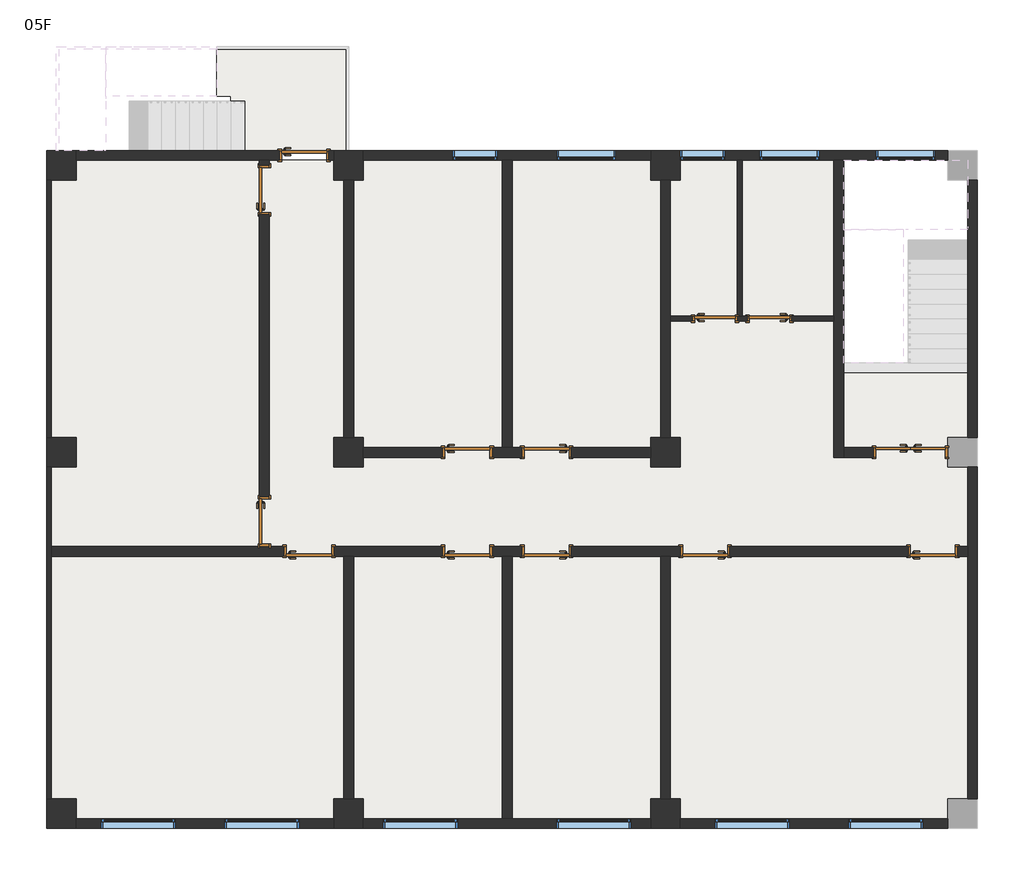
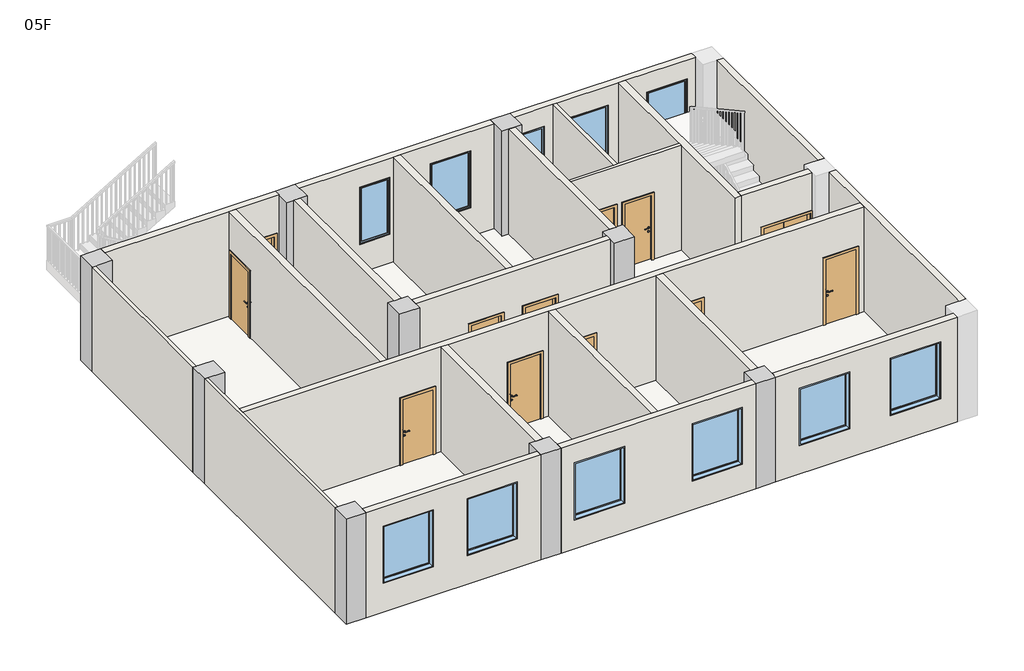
# One storey, part 1 of 3: 23 walls, 13 doors, 11 windows, 9 columns, 2 slabs.
"""IFC4 building model written with IfcOpenShell, lengths in millimetres."""

from ifc_helpers import new_model, si_unit, frame, origin, place, context, project, spatial, polyline, outline, extrude, faceted_brep, transform, mapped, element, save
from components import column_600_x_600mm_867b5594, m2_692f9d9b, m3_ab7da2a0, m3_c9bb6752, m4_a67fd2dd, m4_12d08f6f, c2_16925ed6, c4_3407baf4, c6_982aaf11

model = new_model("IFC4")

# Units and contexts
model_context = context("Model", 3, world=origin())
ifc_project = project(units=[si_unit("LENGTHUNIT", "METRE", prefix="MILLI")], contexts=[model_context])

# Site, building, storey
site = spatial("IfcSite", under=ifc_project)
building = spatial("IfcBuilding", under=site)
storey = spatial("IfcBuildingStorey", under=building, Name="05F", Elevation=13800.0)

# Columns
placement = place(None, origin())
column_600_x_600mm_shape = column_600_x_600mm_867b5594(model_context)
element("IfcColumn", 1, ObjectType="混凝土 - 矩形 - 柱 : 600 x 600mm", at=placement, inside=storey, context=model_context, shape_type="MappedRepresentation", body=[
    mapped(column_600_x_600mm_shape, transform((200.0, 13300.0, 0.0), x_axis=(1.0, 0.0, 0.0), y_axis=(0.0, 1.0, 0.0), z_axis=(0.0, 0.0, 1.0))),
])
element("IfcColumn", 2, ObjectType="混凝土 - 矩形 - 柱 : 600 x 600mm", at=placement, inside=storey, context=model_context, shape_type="MappedRepresentation", body=[
    mapped(column_600_x_600mm_shape, transform((6000.0, 13300.0, 0.0), x_axis=(1.0, 0.0, 0.0), y_axis=(0.0, 1.0, 0.0), z_axis=(0.0, 0.0, 1.0))),
])
element("IfcColumn", 3, ObjectType="混凝土 - 矩形 - 柱 : 600 x 600mm", at=placement, inside=storey, context=model_context, shape_type="MappedRepresentation", body=[
    mapped(column_600_x_600mm_shape, transform((12400.0, 13300.0, 0.0), x_axis=(1.0, 0.0, 0.0), y_axis=(0.0, 1.0, 0.0), z_axis=(0.0, 0.0, 1.0))),
])
element("IfcColumn", 4, ObjectType="混凝土 - 矩形 - 柱 : 600 x 600mm", at=placement, inside=storey, context=model_context, shape_type="MappedRepresentation", body=[
    mapped(column_600_x_600mm_shape, transform((200.0, 7500.0, 0.0), x_axis=(1.0, 0.0, 0.0), y_axis=(0.0, 1.0, 0.0), z_axis=(0.0, 0.0, 1.0))),
])
element("IfcColumn", 5, ObjectType="混凝土 - 矩形 - 柱 : 600 x 600mm", at=placement, inside=storey, context=model_context, shape_type="MappedRepresentation", body=[
    mapped(column_600_x_600mm_shape, transform((6000.0, 7500.0, 0.0), x_axis=(1.0, 0.0, 0.0), y_axis=(0.0, 1.0, 0.0), z_axis=(0.0, 0.0, 1.0))),
])
element("IfcColumn", 6, ObjectType="混凝土 - 矩形 - 柱 : 600 x 600mm", at=placement, inside=storey, context=model_context, shape_type="MappedRepresentation", body=[
    mapped(column_600_x_600mm_shape, transform((12400.0, 7500.0, 0.0), x_axis=(1.0, 0.0, 0.0), y_axis=(0.0, 1.0, 0.0), z_axis=(0.0, 0.0, 1.0))),
])
element("IfcColumn", 7, ObjectType="混凝土 - 矩形 - 柱 : 600 x 600mm", at=placement, inside=storey, context=model_context, shape_type="MappedRepresentation", body=[
    mapped(column_600_x_600mm_shape, transform((200.0, 200.0, 0.0), x_axis=(1.0, 0.0, 0.0), y_axis=(0.0, 1.0, 0.0), z_axis=(0.0, 0.0, 1.0))),
])
element("IfcColumn", 8, ObjectType="混凝土 - 矩形 - 柱 : 600 x 600mm", at=placement, inside=storey, context=model_context, shape_type="MappedRepresentation", body=[
    mapped(column_600_x_600mm_shape, transform((6000.0, 200.0, 0.0), x_axis=(1.0, 0.0, 0.0), y_axis=(0.0, 1.0, 0.0), z_axis=(0.0, 0.0, 1.0))),
])
element("IfcColumn", 9, ObjectType="混凝土 - 矩形 - 柱 : 600 x 600mm", at=placement, inside=storey, context=model_context, shape_type="MappedRepresentation", body=[
    mapped(column_600_x_600mm_shape, transform((12400.0, 200.0, 0.0), x_axis=(1.0, 0.0, 0.0), y_axis=(0.0, 1.0, 0.0), z_axis=(0.0, 0.0, 1.0))),
])

# Doors
m2_shape = m2_692f9d9b(model_context)
element("IfcDoor", 10, ObjectType="双面嵌板木门 1 : M2", at=placement, inside=storey, context=model_context, shape_type="MappedRepresentation", body=[
    mapped(m2_shape, transform((17350.0, 7500.0, 13800.0), x_axis=(1.0, 0.0, 0.0), y_axis=(0.0, 1.0, 0.0), z_axis=(0.0, 0.0, 1.0))),
])
m3_shape = m3_ab7da2a0(model_context)
element("IfcDoor", 11, ObjectType="单嵌板木门 1 : M3", at=placement, inside=storey, context=model_context, shape_type="MappedRepresentation", body=[
    mapped(m3_shape, transform((17800.0, 5500.0, 13800.0), x_axis=(1.0, 0.0, 0.0), y_axis=(0.0, 1.0, 0.0), z_axis=(0.0, 0.0, 1.0))),
])
element("IfcDoor", 12, ObjectType="单嵌板木门 1 : M3", at=placement, inside=storey, context=model_context, shape_type="MappedRepresentation", body=[
    mapped(m3_shape, transform((8400.0, 5500.0, 13800.0), x_axis=(1.0, 0.0, 0.0), y_axis=(0.0, 1.0, 0.0), z_axis=(0.0, 0.0, 1.0))),
])
element("IfcDoor", 13, ObjectType="单嵌板木门 1 : M3", at=placement, inside=storey, context=model_context, shape_type="MappedRepresentation", body=[
    mapped(m3_shape, transform((4300.0, 6100.0, 13800.0), x_axis=(0.0, -1.0, 0.0), y_axis=(1.0, 0.0, 0.0), z_axis=(0.0, 0.0, 1.0))),
])
element("IfcDoor", 14, ObjectType="单嵌板木门 1 : M3", at=placement, inside=storey, context=model_context, shape_type="MappedRepresentation", body=[
    mapped(m3_shape, transform((5200.0, 5500.0, 13800.0), x_axis=(1.0, 0.0, 0.0), y_axis=(0.0, 1.0, 0.0), z_axis=(0.0, 0.0, 1.0))),
])
element("IfcDoor", 15, ObjectType="单嵌板木门 1 : M3", at=placement, inside=storey, context=model_context, shape_type="MappedRepresentation", body=[
    mapped(m3_shape, transform((10000.0, 7500.0, 13800.0), x_axis=(-1.0, 0.0, 0.0), y_axis=(0.0, -1.0, 0.0), z_axis=(0.0, 0.0, 1.0))),
])
m3_2_shape = m3_c9bb6752(model_context)
element("IfcDoor", 16, ObjectType="单嵌板木门 1 : M3", at=placement, inside=storey, context=model_context, shape_type="MappedRepresentation", body=[
    mapped(m3_2_shape, transform((13200.0, 5500.0, 13800.0), x_axis=(-1.0, 0.0, 0.0), y_axis=(0.0, -1.0, 0.0), z_axis=(0.0, 0.0, 1.0))),
])
element("IfcDoor", 17, ObjectType="单嵌板木门 1 : M3", at=placement, inside=storey, context=model_context, shape_type="MappedRepresentation", body=[
    mapped(m3_2_shape, transform((10000.0, 5500.0, 13800.0), x_axis=(-1.0, 0.0, 0.0), y_axis=(0.0, -1.0, 0.0), z_axis=(0.0, 0.0, 1.0))),
])
element("IfcDoor", 18, ObjectType="单嵌板木门 1 : M3", at=placement, inside=storey, context=model_context, shape_type="MappedRepresentation", body=[
    mapped(m3_2_shape, transform((5100.0, 13500.0, 13800.0), x_axis=(1.0, 0.0, 0.0), y_axis=(0.0, 1.0, 0.0), z_axis=(0.0, 0.0, 1.0))),
])
element("IfcDoor", 19, ObjectType="单嵌板木门 1 : M3", at=placement, inside=storey, context=model_context, shape_type="MappedRepresentation", body=[
    mapped(m3_2_shape, transform((4300.0, 12800.0, 13800.0), x_axis=(0.0, 1.0, 0.0), y_axis=(-1.0, 0.0, 0.0), z_axis=(0.0, 0.0, 1.0))),
])
element("IfcDoor", 20, ObjectType="单嵌板木门 1 : M3", at=placement, inside=storey, context=model_context, shape_type="MappedRepresentation", body=[
    mapped(m3_2_shape, transform((8400.0, 7500.0, 13800.0), x_axis=(1.0, 0.0, 0.0), y_axis=(0.0, 1.0, 0.0), z_axis=(0.0, 0.0, 1.0))),
])
m4_shape = m4_a67fd2dd(model_context)
element("IfcDoor", 21, ObjectType="单嵌板木门 1 : M4", at=placement, inside=storey, context=model_context, shape_type="MappedRepresentation", body=[
    mapped(m4_shape, transform((13400.0, 10200.0, 13800.0), x_axis=(1.0, 0.0, 0.0), y_axis=(0.0, 1.0, 0.0), z_axis=(0.0, 0.0, 1.0))),
])
m4_2_shape = m4_12d08f6f(model_context)
element("IfcDoor", 22, ObjectType="单嵌板木门 1 : M4", at=placement, inside=storey, context=model_context, shape_type="MappedRepresentation", body=[
    mapped(m4_2_shape, transform((14500.0, 10200.0, 13800.0), x_axis=(-1.0, 0.0, 0.0), y_axis=(0.0, -1.0, 0.0), z_axis=(0.0, 0.0, 1.0))),
])

# Slabs
element("IfcSlab", 23, ObjectType="100mm厚钢筋混凝土", at=placement, inside=storey, context=model_context, shape_type="SweptSolid", body=[
    extrude(outline(polyline([(15800.0, 13400.0), (15800.0, 9100.0), (18500.0, 9100.0), (18500.0, 100.0), (0.0, 100.0), (0.0, 13400.0), (15800.0, 13400.0)])), frame((0.0, 0.0, 13700.0), z_axis=(0.0, 0.0, 1.0), x_axis=(1.0, 0.0, 0.0)), (0.0, 0.0, 1.0), 100.0),
])
element("IfcSlab", 24, ObjectType="常规 - 300mm", at=placement, inside=storey, context=model_context, shape_type="SweptSolid", body=[
    extrude(outline(polyline([(6000.0, 15699.6), (6000.0, 13600.0), (3620.0, 13600.0), (3620.0, 14700.0), (3340.0, 14700.0), (3340.0, 15699.6), (6000.0, 15699.6)])), frame((0.0, 0.0, 13635.0), z_axis=(0.0, 0.0, 1.0), x_axis=(1.0, 0.0, 0.0)), (0.0, 0.0, 1.0), 165.0),
])

# Walls
element("IfcWall", 25, ObjectType="200mm厚加气混凝土砌块", at=placement, inside=storey, context=model_context, shape_type="Brep", body=[
    faceted_brep([(5700.0, 13400.0, 13800.0), (5700.0, 13400.0, 17100.0), (4400.0, 13400.0, 17100.0), (4200.0, 13400.0, 17100.0), (500.0, 13400.0, 17100.0), (500.0, 13400.0, 13800.0), (4200.0, 13400.0, 13800.0), (4400.0, 13400.0, 13800.0), (4600.0, 13400.0, 13800.0), (4600.0, 13400.0, 15900.0), (5600.0, 13400.0, 15900.0), (5600.0, 13400.0, 13800.0), (5700.0, 13600.0, 17100.0), (5700.0, 13600.0, 13800.0), (5600.0, 13600.0, 13800.0), (5600.0, 13600.0, 15900.0), (4600.0, 13600.0, 15900.0), (4600.0, 13600.0, 13800.0), (500.0, 13600.0, 13800.0), (500.0, 13600.0, 17100.0)], [[[0, 1, 2, 3, 4, 5, 6, 7, 8, 9, 10, 11]], [[12, 13, 14, 15, 16, 17, 18, 19]], [[13, 0, 11, 14]], [[5, 18, 17, 8, 7, 6]], [[1, 0, 13, 12]], [[4, 3, 2, 1, 12, 19]], [[5, 4, 19, 18]], [[10, 15, 14, 11]], [[15, 10, 9, 16]], [[16, 9, 8, 17]]]),
])
element("IfcWall", 26, ObjectType="200mm厚加气混凝土砌块", at=placement, inside=storey, context=model_context, shape_type="Brep", body=[
    faceted_brep([(6300.0, 13400.0, 13800.0), (9100.0, 13400.0, 13800.0), (9300.0, 13400.0, 13800.0), (12100.0, 13400.0, 13800.0), (12100.0, 13400.0, 17100.0), (9300.0, 13400.0, 17100.0), (9100.0, 13400.0, 17100.0), (6300.0, 13400.0, 17100.0), (11400.0, 13400.0, 14700.0), (10200.0, 13400.0, 14700.0), (10200.0, 13400.0, 16500.0), (11400.0, 13400.0, 16500.0), (9000.0, 13400.0, 14700.0), (8100.0, 13400.0, 14700.0), (8100.0, 13400.0, 16500.0), (9000.0, 13400.0, 16500.0), (6300.0, 13600.0, 13800.0), (6300.0, 13600.0, 17100.0), (12100.0, 13600.0, 17100.0), (12100.0, 13600.0, 13800.0), (11400.0, 13600.0, 14700.0), (11400.0, 13600.0, 16500.0), (10200.0, 13600.0, 16500.0), (10200.0, 13600.0, 14700.0), (9000.0, 13600.0, 14700.0), (9000.0, 13600.0, 16500.0), (8100.0, 13600.0, 16500.0), (8100.0, 13600.0, 14700.0)], [[[0, 1, 2, 3, 4, 5, 6, 7], [8, 9, 10, 11], [12, 13, 14, 15]], [[16, 17, 18, 19], [20, 21, 22, 23], [24, 25, 26, 27]], [[3, 2, 1, 0, 16, 19]], [[4, 3, 19, 18]], [[7, 6, 5, 4, 18, 17]], [[0, 7, 17, 16]], [[21, 20, 8, 11]], [[22, 21, 11, 10]], [[23, 22, 10, 9]], [[20, 23, 9, 8]], [[25, 24, 12, 15]], [[26, 25, 15, 14]], [[27, 26, 14, 13]], [[24, 27, 13, 12]]]),
])
element("IfcWall", 27, ObjectType="200mm厚加气混凝土砌块", at=placement, inside=storey, context=model_context, shape_type="Brep", body=[
    faceted_brep([(13600.0, 13400.0, 14700.0), (12700.0, 13400.0, 14700.0), (12700.0, 13400.0, 13800.0), (13850.0, 13400.0, 13800.0), (13950.0, 13400.0, 13800.0), (15800.0, 13400.0, 13800.0), (16000.0, 13400.0, 13800.0), (18100.0, 13400.0, 13800.0), (18100.0, 13400.0, 17100.0), (16000.0, 13400.0, 17100.0), (15800.0, 13400.0, 17100.0), (13950.0, 13400.0, 17100.0), (13850.0, 13400.0, 17100.0), (12700.0, 13400.0, 17100.0), (12700.0, 13400.0, 16500.0), (13600.0, 13400.0, 16500.0), (17850.0, 13400.0, 14700.0), (16650.0, 13400.0, 14700.0), (16650.0, 13400.0, 16500.0), (17850.0, 13400.0, 16500.0), (15500.0, 13400.0, 14700.0), (14300.0, 13400.0, 14700.0), (14300.0, 13400.0, 16500.0), (15500.0, 13400.0, 16500.0), (12700.0, 13600.0, 13800.0), (12700.0, 13600.0, 14700.0), (13600.0, 13600.0, 14700.0), (13600.0, 13600.0, 16500.0), (12700.0, 13600.0, 16500.0), (12700.0, 13600.0, 17100.0), (18100.0, 13600.0, 17100.0), (18100.0, 13600.0, 13800.0), (17850.0, 13600.0, 14700.0), (17850.0, 13600.0, 16500.0), (16650.0, 13600.0, 16500.0), (16650.0, 13600.0, 14700.0), (15500.0, 13600.0, 14700.0), (15500.0, 13600.0, 16500.0), (14300.0, 13600.0, 16500.0), (14300.0, 13600.0, 14700.0)], [[[0, 1, 2, 3, 4, 5, 6, 7, 8, 9, 10, 11, 12, 13, 14, 15], [16, 17, 18, 19], [20, 21, 22, 23]], [[24, 25, 26, 27, 28, 29, 30, 31], [32, 33, 34, 35], [36, 37, 38, 39]], [[7, 6, 5, 4, 3, 2, 24, 31]], [[8, 7, 31, 30]], [[13, 12, 11, 10, 9, 8, 30, 29]], [[14, 13, 29, 28]], [[2, 1, 25, 24]], [[33, 32, 16, 19]], [[34, 33, 19, 18]], [[35, 34, 18, 17]], [[32, 35, 17, 16]], [[37, 36, 20, 23]], [[38, 37, 23, 22]], [[39, 38, 22, 21]], [[36, 39, 21, 20]], [[27, 26, 0, 15]], [[28, 27, 15, 14]], [[26, 25, 1, 0]]]),
])
element("IfcWall", 28, ObjectType="200mm厚加气混凝土砌块", at=placement, inside=storey, context=model_context, shape_type="SweptSolid", body=[
    extrude(outline(polyline([(18500.0, 7800.0), (18500.0, 13000.0), (18700.0, 13000.0), (18700.0, 7800.0), (18500.0, 7800.0)])), frame((0.0, 0.0, 13800.0), z_axis=(0.0, 0.0, 1.0), x_axis=(1.0, 0.0, 0.0)), (0.0, 0.0, 1.0), 3300.0),
])
element("IfcWall", 29, ObjectType="200mm厚加气混凝土砌块", at=placement, inside=storey, context=model_context, shape_type="Brep", body=[
    faceted_brep([(18500.0, 7200.0, 13800.0), (18500.0, 5600.0, 13800.0), (18500.0, 5400.0, 13800.0), (18500.0, 500.0, 13800.0), (18500.0, 500.0, 17100.0), (18500.0, 5400.0, 17100.0), (18500.0, 5600.0, 17100.0), (18500.0, 7200.0, 17100.0), (18700.0, 7200.0, 13800.0), (18700.0, 7200.0, 17100.0), (18700.0, 500.0, 17100.0), (18700.0, 500.0, 13800.0)], [[[0, 1, 2, 3, 4, 5, 6, 7]], [[8, 9, 10, 11]], [[3, 2, 1, 0, 8, 11]], [[4, 3, 11, 10]], [[7, 6, 5, 4, 10, 9]], [[0, 7, 9, 8]]]),
])
element("IfcWall", 30, ObjectType="200mm厚加气混凝土砌块", at=placement, inside=storey, context=model_context, shape_type="SweptSolid", body=[
    extrude(outline(polyline([(13800.0, 18100.0), (17100.0, 18100.0), (17100.0, 12700.0), (13800.0, 12700.0), (13800.0, 18100.0)]), holes=[polyline([(14700.0, 16100.0), (16500.0, 16100.0), (16500.0, 17600.0), (14700.0, 17600.0), (14700.0, 16100.0)]), polyline([(14700.0, 13400.0), (16500.0, 13400.0), (16500.0, 14900.0), (14700.0, 14900.0), (14700.0, 13400.0)])]), frame((0.0, -100.0, 0.0), z_axis=(0.0, 1.0, 0.0), x_axis=(0.0, 0.0, 1.0)), (0.0, 0.0, 1.0), 200.0),
])
element("IfcWall", 31, ObjectType="200mm厚加气混凝土砌块", at=placement, inside=storey, context=model_context, shape_type="Brep", body=[
    faceted_brep([(12100.0, 100.0, 13800.0), (9300.0, 100.0, 13800.0), (9100.0, 100.0, 13800.0), (6300.0, 100.0, 13800.0), (6300.0, 100.0, 17100.0), (9100.0, 100.0, 17100.0), (9300.0, 100.0, 17100.0), (12100.0, 100.0, 17100.0), (6700.0, 100.0, 14700.0), (8200.0, 100.0, 14700.0), (8200.0, 100.0, 16500.0), (6700.0, 100.0, 16500.0), (10200.0, 100.0, 14700.0), (11700.0, 100.0, 14700.0), (11700.0, 100.0, 16500.0), (10200.0, 100.0, 16500.0), (12100.0, -100.0, 13800.0), (12100.0, -100.0, 17100.0), (6300.0, -100.0, 17100.0), (6300.0, -100.0, 13800.0), (6700.0, -100.0, 14700.0), (6700.0, -100.0, 16500.0), (8200.0, -100.0, 16500.0), (8200.0, -100.0, 14700.0), (10200.0, -100.0, 14700.0), (10200.0, -100.0, 16500.0), (11700.0, -100.0, 16500.0), (11700.0, -100.0, 14700.0)], [[[0, 1, 2, 3, 4, 5, 6, 7], [8, 9, 10, 11], [12, 13, 14, 15]], [[16, 17, 18, 19], [20, 21, 22, 23], [24, 25, 26, 27]], [[3, 2, 1, 0, 16, 19]], [[4, 3, 19, 18]], [[7, 6, 5, 4, 18, 17]], [[0, 7, 17, 16]], [[21, 20, 8, 11]], [[22, 21, 11, 10]], [[23, 22, 10, 9]], [[20, 23, 9, 8]], [[25, 24, 12, 15]], [[26, 25, 15, 14]], [[27, 26, 14, 13]], [[24, 27, 13, 12]]]),
])
element("IfcWall", 32, ObjectType="200mm厚加气混凝土砌块", at=placement, inside=storey, context=model_context, shape_type="SweptSolid", body=[
    extrude(outline(polyline([(13800.0, 5700.0), (17100.0, 5700.0), (17100.0, 500.0), (13800.0, 500.0), (13800.0, 5700.0)]), holes=[polyline([(14700.0, 1000.0), (16500.0, 1000.0), (16500.0, 2500.0), (14700.0, 2500.0), (14700.0, 1000.0)]), polyline([(14700.0, 3500.0), (16500.0, 3500.0), (16500.0, 5000.0), (14700.0, 5000.0), (14700.0, 3500.0)])]), frame((0.0, -100.0, 0.0), z_axis=(0.0, 1.0, 0.0), x_axis=(0.0, 0.0, 1.0)), (0.0, 0.0, 1.0), 200.0),
])
element("IfcWall", 33, ObjectType="100mm厚加气混凝土砌块", at=placement, inside=storey, context=model_context, shape_type="Brep", body=[
    faceted_brep([(0.0, 500.0, 13800.0), (0.0, 5400.0, 13800.0), (0.0, 5600.0, 13800.0), (0.0, 7200.0, 13800.0), (0.0, 7200.0, 17100.0), (0.0, 5600.0, 17100.0), (0.0, 5400.0, 17100.0), (0.0, 500.0, 17100.0), (-100.0, 500.0, 13800.0), (-100.0, 500.0, 17100.0), (-100.0, 7200.0, 17100.0), (-100.0, 7200.0, 13800.0)], [[[0, 1, 2, 3, 4, 5, 6, 7]], [[8, 9, 10, 11]], [[3, 2, 1, 0, 8, 11]], [[4, 3, 11, 10]], [[7, 6, 5, 4, 10, 9]], [[0, 7, 9, 8]]]),
])
element("IfcWall", 34, ObjectType="100mm厚加气混凝土砌块", at=placement, inside=storey, context=model_context, shape_type="SweptSolid", body=[
    extrude(outline(polyline([(0.0, 13000.0), (0.0, 7800.0), (-100.0, 7800.0), (-100.0, 13000.0), (0.0, 13000.0)])), frame((0.0, 0.0, 13800.0), z_axis=(0.0, 0.0, 1.0), x_axis=(1.0, 0.0, 0.0)), (0.0, 0.0, 1.0), 3300.0),
])
element("IfcWall", 35, ObjectType="200mm厚加气混凝土砌块", at=placement, inside=storey, context=model_context, shape_type="SweptSolid", body=[
    extrude(outline(polyline([(5900.0, 7800.0), (5900.0, 13000.0), (6100.0, 13000.0), (6100.0, 7800.0), (5900.0, 7800.0)])), frame((0.0, 0.0, 13800.0), z_axis=(0.0, 0.0, 1.0), x_axis=(1.0, 0.0, 0.0)), (0.0, 0.0, 1.0), 3300.0),
])
element("IfcWall", 36, ObjectType="200mm厚加气混凝土砌块", at=placement, inside=storey, context=model_context, shape_type="SweptSolid", body=[
    extrude(outline(polyline([(5900.0, 500.0), (5900.0, 5400.0), (6100.0, 5400.0), (6100.0, 500.0), (5900.0, 500.0)])), frame((0.0, 0.0, 13800.0), z_axis=(0.0, 0.0, 1.0), x_axis=(1.0, 0.0, 0.0)), (0.0, 0.0, 1.0), 3300.0),
])
element("IfcWall", 37, ObjectType="200mm厚加气混凝土砌块", at=placement, inside=storey, context=model_context, shape_type="Brep", body=[
    faceted_brep([(18500.0, 5400.0, 17100.0), (12500.0, 5400.0, 17100.0), (12300.0, 5400.0, 17100.0), (9300.0, 5400.0, 17100.0), (9100.0, 5400.0, 17100.0), (6100.0, 5400.0, 17100.0), (5900.0, 5400.0, 17100.0), (0.0, 5400.0, 17100.0), (0.0, 5400.0, 13800.0), (4700.0, 5400.0, 13800.0), (4700.0, 5400.0, 15900.0), (5700.0, 5400.0, 15900.0), (5700.0, 5400.0, 13800.0), (5900.0, 5400.0, 13800.0), (6100.0, 5400.0, 13800.0), (7900.0, 5400.0, 13800.0), (7900.0, 5400.0, 15900.0), (8900.0, 5400.0, 15900.0), (8900.0, 5400.0, 13800.0), (9100.0, 5400.0, 13800.0), (9300.0, 5400.0, 13800.0), (9500.0, 5400.0, 13800.0), (9500.0, 5400.0, 15900.0), (10500.0, 5400.0, 15900.0), (10500.0, 5400.0, 13800.0), (12300.0, 5400.0, 13800.0), (12500.0, 5400.0, 13800.0), (12700.0, 5400.0, 13800.0), (12700.0, 5400.0, 15900.0), (13700.0, 5400.0, 15900.0), (13700.0, 5400.0, 13800.0), (17300.0, 5400.0, 13800.0), (17300.0, 5400.0, 15900.0), (18300.0, 5400.0, 15900.0), (18300.0, 5400.0, 13800.0), (18500.0, 5400.0, 13800.0), (0.0, 5600.0, 17100.0), (4200.0, 5600.0, 17100.0), (4400.0, 5600.0, 17100.0), (18500.0, 5600.0, 17100.0), (18500.0, 5600.0, 13800.0), (18300.0, 5600.0, 13800.0), (18300.0, 5600.0, 15900.0), (17300.0, 5600.0, 15900.0), (17300.0, 5600.0, 13800.0), (13700.0, 5600.0, 13800.0), (13700.0, 5600.0, 15900.0), (12700.0, 5600.0, 15900.0), (12700.0, 5600.0, 13800.0), (10500.0, 5600.0, 13800.0), (10500.0, 5600.0, 15900.0), (9500.0, 5600.0, 15900.0), (9500.0, 5600.0, 13800.0), (8900.0, 5600.0, 13800.0), (8900.0, 5600.0, 15900.0), (7900.0, 5600.0, 15900.0), (7900.0, 5600.0, 13800.0), (5700.0, 5600.0, 13800.0), (5700.0, 5600.0, 15900.0), (4700.0, 5600.0, 15900.0), (4700.0, 5600.0, 13800.0), (0.0, 5600.0, 13800.0)], [[[0, 1, 2, 3, 4, 5, 6, 7, 8, 9, 10, 11, 12, 13, 14, 15, 16, 17, 18, 19, 20, 21, 22, 23, 24, 25, 26, 27, 28, 29, 30, 31, 32, 33, 34, 35]], [[36, 37, 38, 39, 40, 41, 42, 43, 44, 45, 46, 47, 48, 49, 50, 51, 52, 53, 54, 55, 56, 57, 58, 59, 60, 61]], [[40, 35, 34, 41]], [[8, 61, 60, 9]], [[12, 57, 56, 15, 14, 13]], [[18, 53, 52, 21, 20, 19]], [[24, 49, 48, 27, 26, 25]], [[44, 31, 30, 45]], [[7, 6, 5, 4, 3, 2, 1, 0, 39, 38, 37, 36]], [[0, 35, 40, 39]], [[8, 7, 36, 61]], [[11, 58, 57, 12]], [[58, 11, 10, 59]], [[59, 10, 9, 60]], [[17, 54, 53, 18]], [[54, 17, 16, 55]], [[55, 16, 15, 56]], [[51, 22, 21, 52]], [[22, 51, 50, 23]], [[23, 50, 49, 24]], [[33, 42, 41, 34]], [[42, 33, 32, 43]], [[43, 32, 31, 44]], [[47, 28, 27, 48]], [[28, 47, 46, 29]], [[29, 46, 45, 30]]]),
])
element("IfcWall", 38, ObjectType="200mm厚加气混凝土砌块", at=placement, inside=storey, context=model_context, shape_type="SweptSolid", body=[
    extrude(outline(polyline([(12300.0, 500.0), (12300.0, 5400.0), (12500.0, 5400.0), (12500.0, 500.0), (12300.0, 500.0)])), frame((0.0, 0.0, 13800.0), z_axis=(0.0, 0.0, 1.0), x_axis=(1.0, 0.0, 0.0)), (0.0, 0.0, 1.0), 3300.0),
])
element("IfcWall", 39, ObjectType="200mm厚加气混凝土砌块", at=placement, inside=storey, context=model_context, shape_type="Brep", body=[
    faceted_brep([(12300.0, 13000.0, 13800.0), (12300.0, 7800.0, 13800.0), (12300.0, 7800.0, 17100.0), (12300.0, 13000.0, 17100.0), (12500.0, 13000.0, 13800.0), (12500.0, 13000.0, 17100.0), (12500.0, 10250.0, 17100.0), (12500.0, 10150.0, 17100.0), (12500.0, 7800.0, 17100.0), (12500.0, 7800.0, 13800.0), (12500.0, 10150.0, 13800.0), (12500.0, 10250.0, 13800.0)], [[[0, 1, 2, 3]], [[4, 5, 6, 7, 8, 9, 10, 11]], [[1, 0, 4, 11, 10, 9]], [[2, 1, 9, 8]], [[3, 2, 8, 7, 6, 5]], [[0, 3, 5, 4]]]),
])
element("IfcWall", 40, ObjectType="200mm厚加气混凝土砌块", at=placement, inside=storey, context=model_context, shape_type="Brep", body=[
    faceted_brep([(15800.0, 13400.0, 13800.0), (15800.0, 10250.0, 13800.0), (15800.0, 10150.0, 13800.0), (15800.0, 7400.0, 13800.0), (15800.0, 7400.0, 17100.0), (15800.0, 10150.0, 17100.0), (15800.0, 10250.0, 17100.0), (15800.0, 13400.0, 17100.0), (16000.0, 13400.0, 13800.0), (16000.0, 13400.0, 17100.0), (16000.0, 7600.0, 17100.0), (16000.0, 7400.0, 17100.0), (16000.0, 7400.0, 13800.0), (16000.0, 7600.0, 13800.0)], [[[0, 1, 2, 3, 4, 5, 6, 7]], [[8, 9, 10, 11, 12, 13]], [[3, 2, 1, 0, 8, 13, 12]], [[7, 6, 5, 4, 11, 10, 9]], [[0, 7, 9, 8]], [[4, 3, 12, 11]]]),
])
element("IfcWall", 41, ObjectType="200mm厚加气混凝土砌块", at=placement, inside=storey, context=model_context, shape_type="SweptSolid", body=[
    extrude(outline(polyline([(17100.0, 18100.0), (17100.0, 16000.0), (13800.0, 16000.0), (13800.0, 16600.0), (15900.0, 16600.0), (15900.0, 18100.0), (17100.0, 18100.0)])), frame((0.0, 7400.0, 0.0), z_axis=(0.0, 1.0, 0.0), x_axis=(0.0, 0.0, 1.0)), (0.0, 0.0, 1.0), 200.0),
])
element("IfcWall", 42, ObjectType="100mm厚加气混凝土砌块", at=placement, inside=storey, context=model_context, shape_type="Brep", body=[
    faceted_brep([(15800.0, 10150.0, 17100.0), (12500.0, 10150.0, 17100.0), (12500.0, 10150.0, 13800.0), (12950.0, 10150.0, 13800.0), (12950.0, 10150.0, 15900.0), (13850.0, 10150.0, 15900.0), (13850.0, 10150.0, 13800.0), (14050.0, 10150.0, 13800.0), (14050.0, 10150.0, 15900.0), (14950.0, 10150.0, 15900.0), (14950.0, 10150.0, 13800.0), (15800.0, 10150.0, 13800.0), (12500.0, 10250.0, 17100.0), (13850.0, 10250.0, 17100.0), (13950.0, 10250.0, 17100.0), (15800.0, 10250.0, 17100.0), (15800.0, 10250.0, 13800.0), (14950.0, 10250.0, 13800.0), (14950.0, 10250.0, 15900.0), (14050.0, 10250.0, 15900.0), (14050.0, 10250.0, 13800.0), (13950.0, 10250.0, 13800.0), (13850.0, 10250.0, 13800.0), (13850.0, 10250.0, 15900.0), (12950.0, 10250.0, 15900.0), (12950.0, 10250.0, 13800.0), (12500.0, 10250.0, 13800.0)], [[[0, 1, 2, 3, 4, 5, 6, 7, 8, 9, 10, 11]], [[12, 13, 14, 15, 16, 17, 18, 19, 20, 21, 22, 23, 24, 25, 26]], [[2, 26, 25, 3]], [[16, 11, 10, 17]], [[20, 7, 6, 22, 21]], [[1, 0, 15, 14, 13, 12]], [[2, 1, 12, 26]], [[0, 11, 16, 15]], [[19, 8, 7, 20]], [[8, 19, 18, 9]], [[9, 18, 17, 10]], [[5, 23, 22, 6]], [[23, 5, 4, 24]], [[24, 4, 3, 25]]]),
])
element("IfcWall", 43, ObjectType="100mm厚加气混凝土砌块", at=placement, inside=storey, context=model_context, shape_type="SweptSolid", body=[
    extrude(outline(polyline([(13850.0, 10250.0), (13850.0, 13400.0), (13950.0, 13400.0), (13950.0, 10250.0), (13850.0, 10250.0)])), frame((0.0, 0.0, 13800.0), z_axis=(0.0, 0.0, 1.0), x_axis=(1.0, 0.0, 0.0)), (0.0, 0.0, 1.0), 3300.0),
])
element("IfcWall", 44, ObjectType="200mm厚加气混凝土砌块", at=placement, inside=storey, context=model_context, shape_type="SweptSolid", body=[
    extrude(outline(polyline([(5600.0, 17100.0), (13400.0, 17100.0), (13400.0, 13800.0), (13300.0, 13800.0), (13300.0, 15900.0), (12300.0, 15900.0), (12300.0, 13800.0), (6600.0, 13800.0), (6600.0, 15900.0), (5600.0, 15900.0), (5600.0, 17100.0)])), frame((4200.0, 0.0, 0.0), z_axis=(1.0, 0.0, 0.0), x_axis=(0.0, 1.0, 0.0)), (0.0, 0.0, 1.0), 200.0),
])
element("IfcWall", 45, ObjectType="200mm厚加气混凝土砌块", at=placement, inside=storey, context=model_context, shape_type="SweptSolid", body=[
    extrude(outline(polyline([(9100.0, 100.0), (9100.0, 5400.0), (9300.0, 5400.0), (9300.0, 100.0), (9100.0, 100.0)])), frame((0.0, 0.0, 13800.0), z_axis=(0.0, 0.0, 1.0), x_axis=(1.0, 0.0, 0.0)), (0.0, 0.0, 1.0), 3300.0),
])
element("IfcWall", 46, ObjectType="200mm厚加气混凝土砌块", at=placement, inside=storey, context=model_context, shape_type="Brep", body=[
    faceted_brep([(12100.0, 7400.0, 13800.0), (12100.0, 7400.0, 17100.0), (6300.0, 7400.0, 17100.0), (6300.0, 7400.0, 13800.0), (7900.0, 7400.0, 13800.0), (7900.0, 7400.0, 15900.0), (8900.0, 7400.0, 15900.0), (8900.0, 7400.0, 13800.0), (9500.0, 7400.0, 13800.0), (9500.0, 7400.0, 15900.0), (10500.0, 7400.0, 15900.0), (10500.0, 7400.0, 13800.0), (12100.0, 7600.0, 17100.0), (12100.0, 7600.0, 13800.0), (10500.0, 7600.0, 13800.0), (10500.0, 7600.0, 15900.0), (9500.0, 7600.0, 15900.0), (9500.0, 7600.0, 13800.0), (9300.0, 7600.0, 13800.0), (9100.0, 7600.0, 13800.0), (8900.0, 7600.0, 13800.0), (8900.0, 7600.0, 15900.0), (7900.0, 7600.0, 15900.0), (7900.0, 7600.0, 13800.0), (6300.0, 7600.0, 13800.0), (6300.0, 7600.0, 17100.0), (9100.0, 7600.0, 17100.0), (9300.0, 7600.0, 17100.0)], [[[0, 1, 2, 3, 4, 5, 6, 7, 8, 9, 10, 11]], [[12, 13, 14, 15, 16, 17, 18, 19, 20, 21, 22, 23, 24, 25, 26, 27]], [[13, 0, 11, 14]], [[3, 24, 23, 4]], [[17, 8, 7, 20, 19, 18]], [[1, 0, 13, 12]], [[2, 1, 12, 27, 26, 25]], [[3, 2, 25, 24]], [[16, 9, 8, 17]], [[9, 16, 15, 10]], [[10, 15, 14, 11]], [[6, 21, 20, 7]], [[21, 6, 5, 22]], [[22, 5, 4, 23]]]),
])
element("IfcWall", 47, ObjectType="200mm厚加气混凝土砌块", at=placement, inside=storey, context=model_context, shape_type="SweptSolid", body=[
    extrude(outline(polyline([(9300.0, 13400.0), (9300.0, 7600.0), (9100.0, 7600.0), (9100.0, 13400.0), (9300.0, 13400.0)])), frame((0.0, 0.0, 13800.0), z_axis=(0.0, 0.0, 1.0), x_axis=(1.0, 0.0, 0.0)), (0.0, 0.0, 1.0), 3300.0),
])

# Windows
c2_shape = c2_16925ed6(model_context)
element("IfcWindow", 48, ObjectType="固定 : C2", at=placement, inside=storey, context=model_context, shape_type="MappedRepresentation", body=[
    mapped(c2_shape, transform((10950.0, -13.0, 13800.0), x_axis=(1.0, 0.0, 0.0), y_axis=(0.0, 1.0, 0.0), z_axis=(0.0, 0.0, 1.0))),
])
element("IfcWindow", 49, ObjectType="固定 : C2", at=placement, inside=storey, context=model_context, shape_type="MappedRepresentation", body=[
    mapped(c2_shape, transform((7450.0, -13.0, 13800.0), x_axis=(1.0, 0.0, 0.0), y_axis=(0.0, 1.0, 0.0), z_axis=(0.0, 0.0, 1.0))),
])
element("IfcWindow", 50, ObjectType="固定 : C2", at=placement, inside=storey, context=model_context, shape_type="MappedRepresentation", body=[
    mapped(c2_shape, transform((4250.0, -13.0, 13800.0), x_axis=(1.0, 0.0, 0.0), y_axis=(0.0, 1.0, 0.0), z_axis=(0.0, 0.0, 1.0))),
])
element("IfcWindow", 51, ObjectType="固定 : C2", at=placement, inside=storey, context=model_context, shape_type="MappedRepresentation", body=[
    mapped(c2_shape, transform((1750.0, -13.0, 13800.0), x_axis=(1.0, 0.0, 0.0), y_axis=(0.0, 1.0, 0.0), z_axis=(0.0, 0.0, 1.0))),
])
element("IfcWindow", 52, ObjectType="固定 : C2", at=placement, inside=storey, context=model_context, shape_type="MappedRepresentation", body=[
    mapped(c2_shape, transform((14150.0, -13.0, 13800.0), x_axis=(1.0, 0.0, 0.0), y_axis=(0.0, 1.0, 0.0), z_axis=(0.0, 0.0, 1.0))),
])
element("IfcWindow", 53, ObjectType="固定 : C2", at=placement, inside=storey, context=model_context, shape_type="MappedRepresentation", body=[
    mapped(c2_shape, transform((16850.0, -13.0, 13800.0), x_axis=(1.0, 0.0, 0.0), y_axis=(0.0, 1.0, 0.0), z_axis=(0.0, 0.0, 1.0))),
])
c4_shape = c4_3407baf4(model_context)
element("IfcWindow", 54, ObjectType="固定 : C4", at=placement, inside=storey, context=model_context, shape_type="MappedRepresentation", body=[
    mapped(c4_shape, transform((14900.0, 13513.0, 13800.0), x_axis=(-1.0, 0.0, 0.0), y_axis=(0.0, -1.0, 0.0), z_axis=(0.0, 0.0, 1.0))),
])
element("IfcWindow", 55, ObjectType="固定 : C4", at=placement, inside=storey, context=model_context, shape_type="MappedRepresentation", body=[
    mapped(c4_shape, transform((17250.0, 13513.0, 13800.0), x_axis=(-1.0, 0.0, 0.0), y_axis=(0.0, -1.0, 0.0), z_axis=(0.0, 0.0, 1.0))),
])
element("IfcWindow", 56, ObjectType="固定 : C4", at=placement, inside=storey, context=model_context, shape_type="MappedRepresentation", body=[
    mapped(c4_shape, transform((10800.0, 13513.0, 13800.0), x_axis=(-1.0, 0.0, 0.0), y_axis=(0.0, -1.0, 0.0), z_axis=(0.0, 0.0, 1.0))),
])
c6_shape = c6_982aaf11(model_context)
element("IfcWindow", 57, ObjectType="固定 : C6", at=placement, inside=storey, context=model_context, shape_type="MappedRepresentation", body=[
    mapped(c6_shape, transform((8550.0, 13513.0, 13800.0), x_axis=(-1.0, 0.0, 0.0), y_axis=(0.0, -1.0, 0.0), z_axis=(0.0, 0.0, 1.0))),
])
element("IfcWindow", 58, ObjectType="固定 : C6", at=placement, inside=storey, context=model_context, shape_type="MappedRepresentation", body=[
    mapped(c6_shape, transform((13150.0, 13513.0, 13800.0), x_axis=(-1.0, 0.0, 0.0), y_axis=(0.0, -1.0, 0.0), z_axis=(0.0, 0.0, 1.0))),
])

save(model, "model.ifc")
